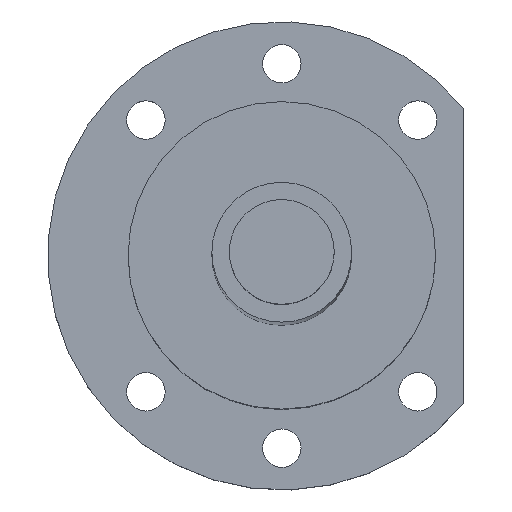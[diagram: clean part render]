
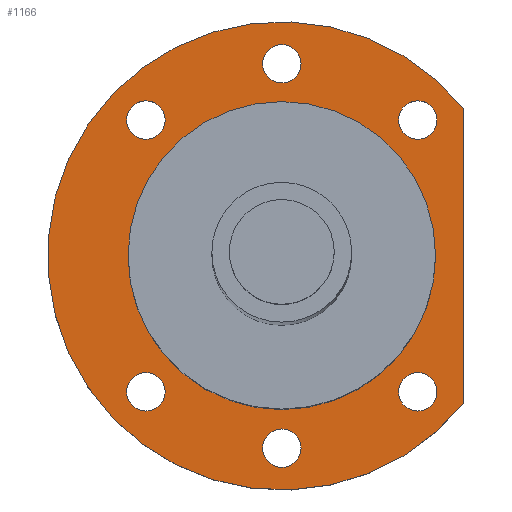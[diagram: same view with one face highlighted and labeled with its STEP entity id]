
A CAD part, top view. The second image highlights one B-rep face of the part: STEP entity #1166.
In plain terms, the highlighted planar face has unit normal (0, 0, 1).
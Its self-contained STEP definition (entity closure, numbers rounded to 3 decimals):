
#162=CARTESIAN_POINT('',(19.445,19.445,356.5));
#163=DIRECTION('',(0.,0.,-1.));
#164=DIRECTION('',(1.,0.,0.));
#165=AXIS2_PLACEMENT_3D('',#162,#163,#164);
#167=CARTESIAN_POINT('',(19.445,19.445,356.5));
#168=DIRECTION('',(0.,0.,-1.));
#169=DIRECTION('',(-1.,0.,0.));
#170=AXIS2_PLACEMENT_3D('',#167,#168,#169);
#172=CARTESIAN_POINT('',(0.,27.5,356.5));
#173=DIRECTION('',(0.,0.,-1.));
#174=DIRECTION('',(1.,0.,0.));
#175=AXIS2_PLACEMENT_3D('',#172,#173,#174);
#177=CARTESIAN_POINT('',(0.,27.5,356.5));
#178=DIRECTION('',(0.,0.,-1.));
#179=DIRECTION('',(-1.,0.,0.));
#180=AXIS2_PLACEMENT_3D('',#177,#178,#179);
#182=CARTESIAN_POINT('',(-19.445,19.445,356.5));
#183=DIRECTION('',(0.,0.,-1.));
#184=DIRECTION('',(1.,0.,0.));
#185=AXIS2_PLACEMENT_3D('',#182,#183,#184);
#187=CARTESIAN_POINT('',(-19.445,19.445,356.5));
#188=DIRECTION('',(0.,0.,-1.));
#189=DIRECTION('',(-1.,0.,0.));
#190=AXIS2_PLACEMENT_3D('',#187,#188,#189);
#192=CARTESIAN_POINT('',(-19.445,-19.445,356.5));
#193=DIRECTION('',(0.,0.,-1.));
#194=DIRECTION('',(1.,0.,0.));
#195=AXIS2_PLACEMENT_3D('',#192,#193,#194);
#197=CARTESIAN_POINT('',(-19.445,-19.445,356.5));
#198=DIRECTION('',(0.,0.,-1.));
#199=DIRECTION('',(-1.,0.,0.));
#200=AXIS2_PLACEMENT_3D('',#197,#198,#199);
#202=CARTESIAN_POINT('',(0.,-27.5,356.5));
#203=DIRECTION('',(0.,0.,-1.));
#204=DIRECTION('',(1.,0.,0.));
#205=AXIS2_PLACEMENT_3D('',#202,#203,#204);
#207=CARTESIAN_POINT('',(0.,-27.5,356.5));
#208=DIRECTION('',(0.,0.,-1.));
#209=DIRECTION('',(-1.,0.,0.));
#210=AXIS2_PLACEMENT_3D('',#207,#208,#209);
#212=CARTESIAN_POINT('',(19.445,-19.445,356.5));
#213=DIRECTION('',(0.,0.,-1.));
#214=DIRECTION('',(1.,0.,0.));
#215=AXIS2_PLACEMENT_3D('',#212,#213,#214);
#217=CARTESIAN_POINT('',(19.445,-19.445,356.5));
#218=DIRECTION('',(0.,0.,-1.));
#219=DIRECTION('',(-1.,0.,0.));
#220=AXIS2_PLACEMENT_3D('',#217,#218,#219);
#222=CARTESIAN_POINT('',(0.,0.,356.5));
#223=DIRECTION('',(0.,0.,1.));
#224=DIRECTION('',(0.776,0.631,0.));
#225=AXIS2_PLACEMENT_3D('',#222,#223,#224);
#227=DIRECTION('',(0.,1.,0.));
#228=VECTOR('',#227,42.249);
#229=CARTESIAN_POINT('',(26.,-21.125,356.5));
#230=LINE('',#229,#228);
#231=CARTESIAN_POINT('',(0.,0.,356.5));
#232=DIRECTION('',(0.,0.,1.));
#233=DIRECTION('',(0.,-1.,0.));
#234=AXIS2_PLACEMENT_3D('',#231,#232,#233);
#236=CARTESIAN_POINT('',(0.,0.,356.5));
#237=DIRECTION('',(0.,0.,1.));
#238=DIRECTION('',(0.,1.,0.));
#239=AXIS2_PLACEMENT_3D('',#236,#237,#238);
#751=CARTESIAN_POINT('',(22.195,19.445,356.5));
#752=CARTESIAN_POINT('',(16.695,19.445,356.5));
#753=VERTEX_POINT('',#751);
#754=VERTEX_POINT('',#752);
#755=CARTESIAN_POINT('',(2.75,27.5,356.5));
#756=CARTESIAN_POINT('',(-2.75,27.5,356.5));
#757=VERTEX_POINT('',#755);
#758=VERTEX_POINT('',#756);
#759=CARTESIAN_POINT('',(-16.695,19.445,356.5));
#760=CARTESIAN_POINT('',(-22.195,19.445,356.5));
#761=VERTEX_POINT('',#759);
#762=VERTEX_POINT('',#760);
#763=CARTESIAN_POINT('',(-16.695,-19.445,356.5));
#764=CARTESIAN_POINT('',(-22.195,-19.445,356.5));
#765=VERTEX_POINT('',#763);
#766=VERTEX_POINT('',#764);
#767=CARTESIAN_POINT('',(2.75,-27.5,356.5));
#768=CARTESIAN_POINT('',(-2.75,-27.5,356.5));
#769=VERTEX_POINT('',#767);
#770=VERTEX_POINT('',#768);
#771=CARTESIAN_POINT('',(22.195,-19.445,356.5));
#772=CARTESIAN_POINT('',(16.695,-19.445,356.5));
#773=VERTEX_POINT('',#771);
#774=VERTEX_POINT('',#772);
#775=CARTESIAN_POINT('',(26.,21.125,356.5));
#776=CARTESIAN_POINT('',(26.,-21.125,356.5));
#777=VERTEX_POINT('',#775);
#778=VERTEX_POINT('',#776);
#859=CARTESIAN_POINT('',(0.,-22.,356.5));
#860=CARTESIAN_POINT('',(0.,22.,356.5));
#861=VERTEX_POINT('',#859);
#862=VERTEX_POINT('',#860);
#1115=CARTESIAN_POINT('',(0.,0.,356.5));
#1116=DIRECTION('',(0.,0.,1.));
#1117=DIRECTION('',(1.,0.,0.));
#1118=AXIS2_PLACEMENT_3D('',#1115,#1116,#1117);
#1119=PLANE('',#1118);
#1120=ORIENTED_EDGE('',*,*,#1095,.F.);
#1121=ORIENTED_EDGE('',*,*,#1109,.F.);
#1122=EDGE_LOOP('',(#1120,#1121));
#1123=FACE_OUTER_BOUND('',#1122,.F.);
#1125=ORIENTED_EDGE('',*,*,#1124,.F.);
#1127=ORIENTED_EDGE('',*,*,#1126,.F.);
#1128=EDGE_LOOP('',(#1125,#1127));
#1129=FACE_BOUND('',#1128,.F.);
#1131=ORIENTED_EDGE('',*,*,#1130,.F.);
#1133=ORIENTED_EDGE('',*,*,#1132,.F.);
#1134=EDGE_LOOP('',(#1131,#1133));
#1135=FACE_BOUND('',#1134,.F.);
#1137=ORIENTED_EDGE('',*,*,#1136,.F.);
#1139=ORIENTED_EDGE('',*,*,#1138,.F.);
#1140=EDGE_LOOP('',(#1137,#1139));
#1141=FACE_BOUND('',#1140,.F.);
#1143=ORIENTED_EDGE('',*,*,#1142,.F.);
#1145=ORIENTED_EDGE('',*,*,#1144,.F.);
#1146=EDGE_LOOP('',(#1143,#1145));
#1147=FACE_BOUND('',#1146,.F.);
#1149=ORIENTED_EDGE('',*,*,#1148,.F.);
#1151=ORIENTED_EDGE('',*,*,#1150,.F.);
#1152=EDGE_LOOP('',(#1149,#1151));
#1153=FACE_BOUND('',#1152,.F.);
#1155=ORIENTED_EDGE('',*,*,#1154,.F.);
#1157=ORIENTED_EDGE('',*,*,#1156,.F.);
#1158=EDGE_LOOP('',(#1155,#1157));
#1159=FACE_BOUND('',#1158,.F.);
#1161=ORIENTED_EDGE('',*,*,#1160,.T.);
#1163=ORIENTED_EDGE('',*,*,#1162,.T.);
#1164=EDGE_LOOP('',(#1161,#1163));
#1165=FACE_BOUND('',#1164,.F.);
#1166=ADVANCED_FACE('',(#1123,#1129,#1135,#1141,#1147,#1153,#1159,#1165),#1119,
.T.);
#166=CIRCLE('',#165,2.75);
#171=CIRCLE('',#170,2.75);
#176=CIRCLE('',#175,2.75);
#181=CIRCLE('',#180,2.75);
#186=CIRCLE('',#185,2.75);
#191=CIRCLE('',#190,2.75);
#196=CIRCLE('',#195,2.75);
#201=CIRCLE('',#200,2.75);
#206=CIRCLE('',#205,2.75);
#211=CIRCLE('',#210,2.75);
#216=CIRCLE('',#215,2.75);
#221=CIRCLE('',#220,2.75);
#226=CIRCLE('',#225,33.5);
#235=CIRCLE('',#234,22.);
#240=CIRCLE('',#239,22.);
#1095=EDGE_CURVE('',#777,#778,#226,.T.);
#1109=EDGE_CURVE('',#778,#777,#230,.T.);
#1124=EDGE_CURVE('',#753,#754,#166,.T.);
#1126=EDGE_CURVE('',#754,#753,#171,.T.);
#1130=EDGE_CURVE('',#757,#758,#176,.T.);
#1132=EDGE_CURVE('',#758,#757,#181,.T.);
#1136=EDGE_CURVE('',#761,#762,#186,.T.);
#1138=EDGE_CURVE('',#762,#761,#191,.T.);
#1142=EDGE_CURVE('',#765,#766,#196,.T.);
#1144=EDGE_CURVE('',#766,#765,#201,.T.);
#1148=EDGE_CURVE('',#769,#770,#206,.T.);
#1150=EDGE_CURVE('',#770,#769,#211,.T.);
#1154=EDGE_CURVE('',#773,#774,#216,.T.);
#1156=EDGE_CURVE('',#774,#773,#221,.T.);
#1160=EDGE_CURVE('',#861,#862,#235,.T.);
#1162=EDGE_CURVE('',#862,#861,#240,.T.);
